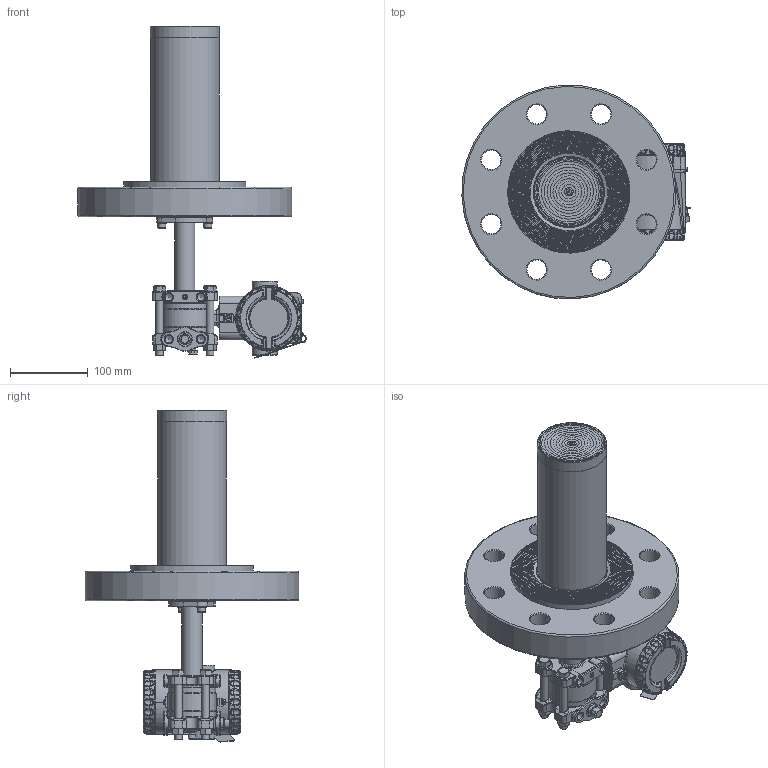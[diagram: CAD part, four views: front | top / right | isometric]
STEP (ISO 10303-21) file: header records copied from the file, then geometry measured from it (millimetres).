
FILE_DESCRIPTION(/* description */ (''),/* implementation_level */ '2;1');
FILE_NAME(/* name */ 'F:\Area\Desenvolvimento_2\Projects\Sensor\projetos\LD400-3d\dimensionais 3D clientes\LD400L\LD400L 4-600 RF ext 200 ref 1-4NPT purga acima.stp',/* time_stamp */ '2023-02-23T16:59:58-03:00',/* author */ ('inventor02'),/* organization */ (''),/* preprocessor_version */ 'ST-DEVELOPER v17',/* originating_system */ 'Autodesk Inventor 2019',/* authorisation */ '');
FILE_SCHEMA (('CONFIG_CONTROL_DESIGN'));
Products named in the file (41): LD30XL 4-600 RF ext 200 ref 1-4NPT purga acima; 204-0301-L-4 600 RF ext 200 purga acima; nivel fx3 com baixa diferencial 1-4NPT purga acima; involucro fx0-3 apos a usinagem final; flange diferencial std purga; 101-C-7484-01 flange selo nivel VR; 201-A-0504-tubo união teste 1; bujao 1-4NPT; Sangria; Porca 3-8 x 16 UNC; Paraf. 3-8 x 16 UNC; adaptação tubo x flanges 1-1-2 a 4pol; 101-B-0161-anel cortado do tubo - teste1; 101-B-0162-flange fixação tubo; ANSI B18.3.1M - M6x1 x 16; DIN 127 - A 6; flange 4 600 ext 200; 101-C-0132-09; 096-B-0212-15; 101-B-7702-02 ext 4-200; Carcaça 400 com tampas e plaqueta sem letras; 101-D-0845-05 carcaça LD400 sem letras; 101-B-3614-03-tampa 400 sem letras; Tampa visor 400 montada sem letras; 101-B-3612-05 tampa visor 400 sem letras; 101-A-6107; oring 2034; 00034775-0; WHW_250; DIN 915 - M6 x 10; Chapa aterramento externo; 201-A-1771-02 inserto terra recartilhado; AS 1969 - ST4,2; ISO 1207 - M4 x 8; ANSI B18.3.1M - M4x0,7 x 8; Subconjunto plaqueta 400; plaqueta 400 em branco; Parafuso da Plaqueta; Rebite da Plaqueta; 096-A-0169-03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
Assembly tree (50 placements, depth 4):
  LD30XL 4-600 RF ext 200 ref 1-4NPT purga acima
    204-0301-L-4 600 RF ext 200 purga acima
      nivel fx3 com baixa diferencial 1-4NPT purga acima
        involucro fx0-3 apos a usinagem final
        flange diferencial std purga
        101-C-7484-01 flange selo nivel VR
        201-A-0504-tubo união teste 1
        DIN 915 - M6 x 10
        bujao 1-4NPT
        Sangria
        Porca 3-8 x 16 UNC  x4
        Paraf. 3-8 x 16 UNC  x4
      adaptação tubo x flanges 1-1-2 a 4pol
        101-B-0161-anel cortado do tubo - teste1
        101-B-0162-flange fixação tubo
        ANSI B18.3.1M - M6x1 x 16  x2
        DIN 127 - A 6  x2
      flange 4 600 ext 200
        101-C-0132-09
        096-B-0212-15
        101-B-7702-02 ext 4-200
    Carcaça 400 com tampas e plaqueta sem letras
      101-D-0845-05 carcaça LD400 sem letras
      101-B-3614-03-tampa 400 sem letras
      Tampa visor 400 montada sem letras
        101-B-3612-05 tampa visor 400 sem letras
        101-A-6107
        oring 2034
        00034775-0
        WHW_250
      DIN 915 - M6 x 10
      Chapa aterramento externo
      201-A-1771-02 inserto terra recartilhado
      AS 1969 - ST4,2
      ISO 1207 - M4 x 8
      ANSI B18.3.1M - M4x0,7 x 8  x2
      Subconjunto plaqueta 400
        plaqueta 400 em branco
        Parafuso da Plaqueta
        Rebite da Plaqueta
        096-A-0169-03
        101-A-0502-01
Bounding box: 293.12 x 274.74 x 426.42 mm (x, y, z)
Volume: 3203978.3 mm3; surface area: 548675.7 mm2
Topology: 43 solids, 43 shells, 2834 faces, 6835 edges, 4112 vertices
Faces by surface type: plane 751, cylinder 668, bspline 604, torus 505, cone 230, sphere 76
Full cylindrical faces by diameter (mm): 2 x4, 2.1 x1, 2.2 x1, 2.459 x3, 2.5 x1, 2.7 x1, 2.8 x1, 3 x4, 3.242 x3, 3.5 x1, 3.571 x1, 4 x5, 4.3 x2, 4.4 x1, 4.917 x4, 5 x1, 5.5 x3, 6 x6, 6.1 x2, 6.2 x1, 6.647 x1, 7 x5, 7.6 x2, 7.798 x4, 8 x1, 9.525 x4, 9.728 x6, 10 x2, 10.5 x8, 10.719 x2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
Entity records: 100416 total; most frequent: CARTESIAN_POINT 37343, DIRECTION 13070, ORIENTED_EDGE 12910, EDGE_CURVE 6455, AXIS2_PLACEMENT_3D 5618, VERTEX_POINT 3918, CIRCLE 3271, EDGE_LOOP 2907
